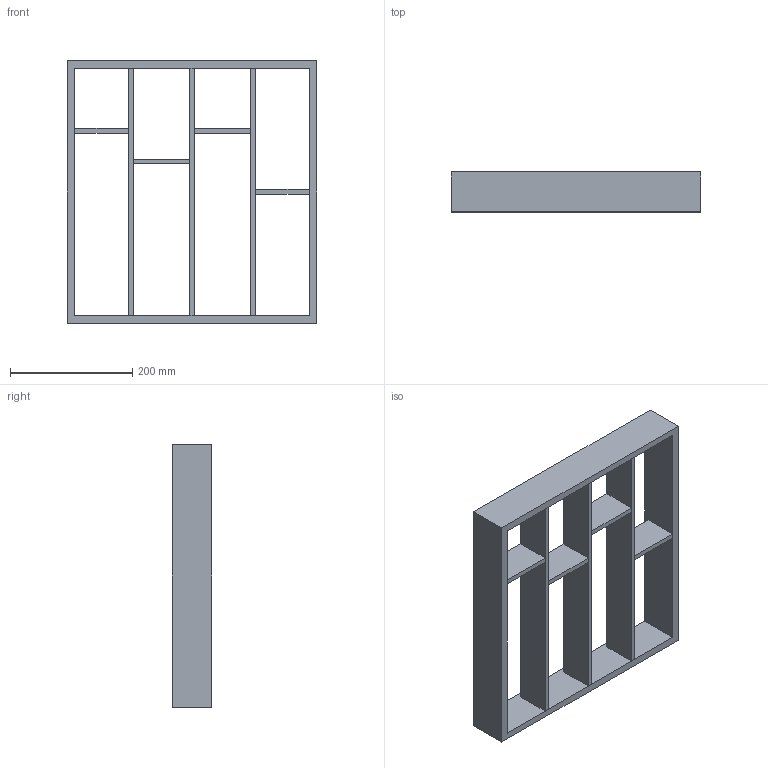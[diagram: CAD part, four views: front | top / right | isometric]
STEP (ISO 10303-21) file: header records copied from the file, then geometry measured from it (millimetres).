
FILE_DESCRIPTION (( 'STEP AP214' ), '1' );
FILE_NAME ('Vario Besteck NL450_B500_16 mm_Buche.step', '2010-11-04T08:33:04', ( 'grass' ), ( '' ), 'SwSTEP 2.0', 'SolidWorks 2010', '' );
FILE_SCHEMA (( 'AUTOMOTIVE_DESIGN' ));
Length unit declared in the file: millimetre
Products named in the file (1): Vario Besteck NL450_B500_16 mm_Buche
Bounding box: 408 x 65 x 429 mm (x, y, z)
Volume: 1986480 mm3; surface area: 461538 mm2
Topology: 8 solids, 8 shells, 52 faces, 108 edges, 72 vertices
Faces by surface type: plane 52
Entity records: 1453 total; most frequent: CARTESIAN_POINT 233, ORIENTED_EDGE 216, DIRECTION 214, LINE 108, VECTOR 108, EDGE_CURVE 108, VERTEX_POINT 72, EDGE_LOOP 54
